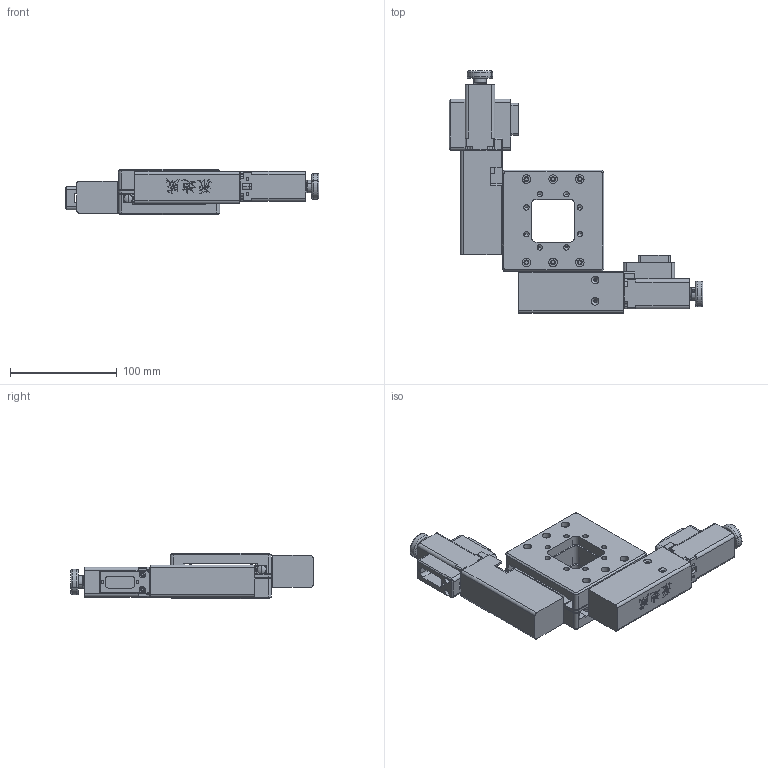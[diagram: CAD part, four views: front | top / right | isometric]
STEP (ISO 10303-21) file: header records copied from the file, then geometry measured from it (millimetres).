
FILE_DESCRIPTION (( 'STEP AP203' ), '1' );
FILE_NAME ('XY15.STEP', '2022-09-03T01:21:20', ( '' ), ( '' ), 'SwSTEP 2.0', 'SolidWorks 2020', '' );
FILE_SCHEMA (( 'CONFIG_CONTROL_DESIGN' ));
Length unit declared in the file: millimetre
Products named in the file (1): XY15
Bounding box: 238 x 227 x 42.5 mm (x, y, z)
Volume: 511971.7 mm3; surface area: 213570.1 mm2
Topology: 26 solids, 30 shells, 2646 faces, 7413 edges, 4711 vertices
Faces by surface type: plane 1210, cylinder 882, cone 429, bspline 81, torus 44
Entity records: 92857 total; most frequent: CARTESIAN_POINT 24179, ORIENTED_EDGE 14606, DIRECTION 14066, EDGE_CURVE 7303, AXIS2_PLACEMENT_3D 4938, VERTEX_POINT 4711, LINE 4190, VECTOR 4190
